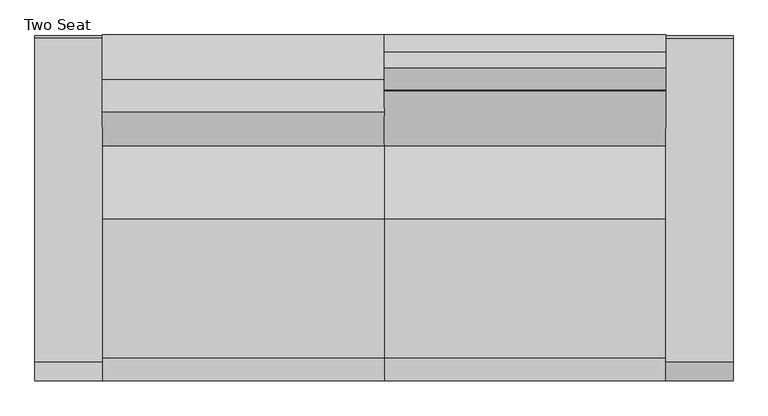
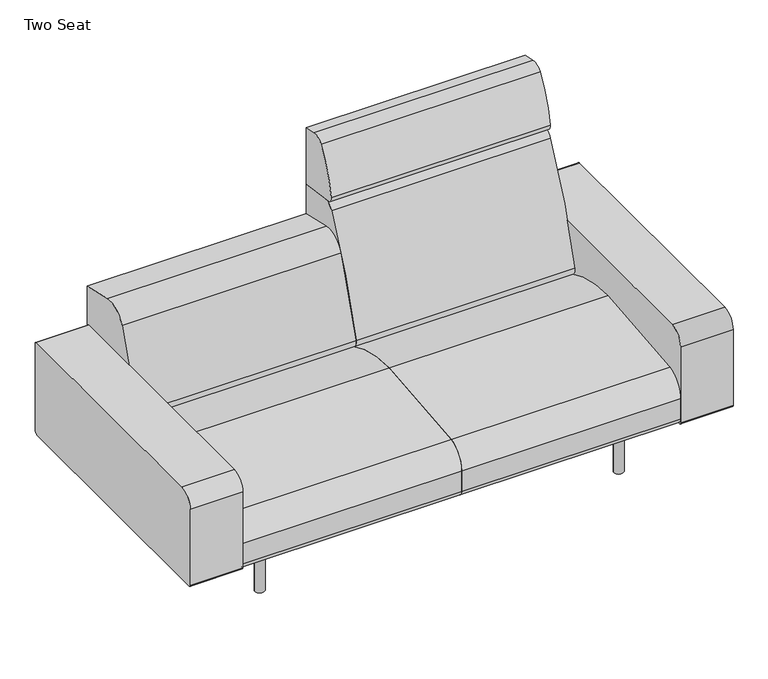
"""IFC4 building model written with IfcOpenShell, lengths in millimetres: furniture geometry, Coalesse_AM_Seating_LoungeChair_Sistema_LegBase_TwoSeat : Two Seat."""

from ifc_helpers import new_model, si_unit, point, frame, frame_2d, origin, origin_with_axes, place, context, project, spatial, polyline, circle_curve, trimmed, segment, composite_curve, outline, extrude, source, transform, mapped, element, save


def two_seat_aba1a2fd(model_context):
    return source(origin(), model_context, "Body", "SweptSolid", [
        extrude(outline(composite_curve([segment(trimmed(circle_curve(frame_2d((989.1765227, 335.9943389)), 6.096), [point((995.2725227, 335.9943389))], [point((983.0805227, 335.9943389))], False, "CARTESIAN"), True, "CONTINUOUS"), segment(trimmed(circle_curve(frame_2d((989.1765227, 335.9943389)), 6.096), [point((983.0805227, 335.9943389))], [point((995.2725227, 335.9943389))], False, "CARTESIAN"), True, "CONTINUOUS")], self_intersect=False)), origin_with_axes(), (0.0, 0.0, 1.0), 4.3662291),
        extrude(outline(composite_curve([segment(trimmed(circle_curve(frame_2d((989.1765227, -327.2630889)), 6.096), [point((995.2725227, -327.2630889))], [point((983.0805227, -327.2630889))], False, "CARTESIAN"), True, "CONTINUOUS"), segment(trimmed(circle_curve(frame_2d((989.1765227, -327.2630889)), 6.096), [point((983.0805227, -327.2630889))], [point((995.2725227, -327.2630889))], False, "CARTESIAN"), True, "CONTINUOUS")], self_intersect=False)), origin_with_axes(), (0.0, 0.0, 1.0), 4.3662291),
        extrude(outline(composite_curve([segment(polyline([(157.0399209, 1001.756375), (201.7356243, 1001.756375)]), True, "CONTINUOUS"), segment(trimmed(circle_curve(frame_2d((201.7356243, 998.708375)), 3.048), [point((201.7356243, 1001.756375))], [point((204.7836243, 998.708375))], False, "CARTESIAN"), True, "CONTINUOUS"), segment(polyline([(204.7836243, 998.708375), (204.7836243, 979.366199)]), True, "CONTINUOUS"), segment(trimmed(circle_curve(frame_2d((201.7356243, 979.366199)), 3.048), [point((204.7836243, 979.366199))], [point((201.7356243, 976.318199))], False, "CARTESIAN"), True, "CONTINUOUS"), segment(polyline([(201.7356243, 976.318199), (157.1249936, 976.318199)]), True, "CONTINUOUS"), segment(trimmed(circle_curve(frame_2d((157.1249936, 979.4512718)), 3.1330728), [point((157.1249936, 976.318199))], [point((153.9919209, 979.4512718))], False, "CARTESIAN"), True, "CONTINUOUS"), segment(polyline([(153.9919209, 979.4512718), (153.9919209, 998.708375)]), True, "CONTINUOUS"), segment(trimmed(circle_curve(frame_2d((157.0399209, 998.708375)), 3.048), [point((153.9919209, 998.708375))], [point((157.0399209, 1001.756375))], False, "CARTESIAN"), True, "CONTINUOUS")], self_intersect=False)), frame((0.0, 222.3519802, 0.0), z_axis=(0.0, 1.0, 0.0), x_axis=(0.0, 0.0, 1.0)), (0.0, 0.0, 1.0), 92.6273161),
        extrude(outline(composite_curve([segment(polyline([(157.0399209, 1001.756375), (201.7356243, 1001.756375)]), True, "CONTINUOUS"), segment(trimmed(circle_curve(frame_2d((201.7356243, 998.708375)), 3.048), [point((201.7356243, 1001.756375))], [point((204.7836243, 998.708375))], False, "CARTESIAN"), True, "CONTINUOUS"), segment(polyline([(204.7836243, 998.708375), (204.7836243, 979.366199)]), True, "CONTINUOUS"), segment(trimmed(circle_curve(frame_2d((201.7356243, 979.366199)), 3.048), [point((204.7836243, 979.366199))], [point((201.7356243, 976.318199))], False, "CARTESIAN"), True, "CONTINUOUS"), segment(polyline([(201.7356243, 976.318199), (157.1249936, 976.318199)]), True, "CONTINUOUS"), segment(trimmed(circle_curve(frame_2d((157.1249936, 979.4512718)), 3.1330728), [point((157.1249936, 976.318199))], [point((153.9919209, 979.4512718))], False, "CARTESIAN"), True, "CONTINUOUS"), segment(polyline([(153.9919209, 979.4512718), (153.9919209, 998.708375)]), True, "CONTINUOUS"), segment(trimmed(circle_curve(frame_2d((157.0399209, 998.708375)), 3.048), [point((153.9919209, 998.708375))], [point((157.0399209, 1001.756375))], False, "CARTESIAN"), True, "CONTINUOUS")], self_intersect=False)), frame((0.0, -314.9792963, 0.0), z_axis=(0.0, 1.0, 0.0), x_axis=(0.0, 0.0, 1.0)), (0.0, 0.0, 1.0), 92.6273161),
        extrude(outline(composite_curve([segment(trimmed(circle_curve(frame_2d((176.3356606, 966.5259944)), 3.048), [point((179.3836606, 966.5259944))], [point((176.3356606, 963.4779944))], False, "CARTESIAN"), True, "CONTINUOUS"), segment(polyline([(176.3356606, 963.4779944), (157.0399209, 963.4779944)]), True, "CONTINUOUS"), segment(trimmed(circle_curve(frame_2d((157.0399209, 966.5259944)), 3.048), [point((157.0399209, 963.4779944))], [point((153.9919209, 966.5259944))], False, "CARTESIAN"), True, "CONTINUOUS"), segment(polyline([(153.9919209, 966.5259944), (153.9919209, 1011.2135501)]), True, "CONTINUOUS"), segment(trimmed(circle_curve(frame_2d((157.056462, 1011.2135501)), 3.0645412), [point((153.9919209, 1011.2135501))], [point((157.056462, 1014.2780913))], False, "CARTESIAN"), True, "CONTINUOUS"), segment(polyline([(157.056462, 1014.2780913), (176.3356606, 1014.2780913)]), True, "CONTINUOUS"), segment(trimmed(circle_curve(frame_2d((176.3356606, 1011.2300913)), 3.048), [point((176.3356606, 1014.2780913))], [point((179.3836606, 1011.2300913))], False, "CARTESIAN"), True, "CONTINUOUS"), segment(polyline([(179.3836606, 1011.2300913), (179.3836606, 966.5259944)]), True, "CONTINUOUS")], self_intersect=False)), frame((0.0, -222.3519802, 0.0), z_axis=(0.0, 1.0, 0.0), x_axis=(0.0, 0.0, 1.0)), (0.0, 0.0, 1.0), 444.7039604),
        extrude(outline(composite_curve([segment(trimmed(circle_curve(frame_2d((989.1765227, 332.3095741)), 16.51), [point((1005.6865227, 332.3095741))], [point((972.6665227, 332.3095741))], False, "CARTESIAN"), True, "CONTINUOUS"), segment(trimmed(circle_curve(frame_2d((989.1765227, 332.3095741)), 16.51), [point((972.6665227, 332.3095741))], [point((1005.6865227, 332.3095741))], False, "CARTESIAN"), True, "CONTINUOUS")], self_intersect=False)), frame((0.0, 0.0, 4.3662291), z_axis=(0.0, 0.0, 1.0), x_axis=(1.0, 0.0, 0.0)), (0.0, 0.0, 1.0), 200.1037709),
        extrude(outline(composite_curve([segment(trimmed(circle_curve(frame_2d((988.7796477, -327.5470741)), 16.51), [point((1005.2896477, -327.5470741))], [point((972.2696477, -327.5470741))], False, "CARTESIAN"), True, "CONTINUOUS"), segment(trimmed(circle_curve(frame_2d((988.7796477, -327.5470741)), 16.51), [point((972.2696477, -327.5470741))], [point((1005.2896477, -327.5470741))], False, "CARTESIAN"), True, "CONTINUOUS")], self_intersect=False)), frame((0.0, 0.0, 4.3662291), z_axis=(0.0, 0.0, 1.0), x_axis=(1.0, 0.0, 0.0)), (0.0, 0.0, 1.0), 200.1037709),
        extrude(outline(composite_curve([segment(polyline([(-461.2704381, 212.4103341), (-461.2704381, 487.0244726)]), True, "CONTINUOUS"), segment(trimmed(circle_curve(frame_2d((-410.4704381, 487.0244726)), 50.8), [point((-461.2704381, 487.0244726))], [point((-410.4704381, 537.8244726))], False, "CARTESIAN"), True, "CONTINUOUS"), segment(polyline([(-410.4704381, 537.8244726), (450.1139321, 537.8244726)]), True, "CONTINUOUS"), segment(trimmed(circle_curve(frame_2d((450.1139321, 530.2044726)), 7.62), [point((450.1139321, 537.8244726))], [point((457.7339321, 530.2044726))], False, "CARTESIAN"), True, "CONTINUOUS"), segment(polyline([(457.7339321, 530.2044726), (457.7339321, 217.4903341)]), True, "CONTINUOUS"), segment(trimmed(circle_curve(frame_2d((445.0339321, 217.4903341)), 12.7), [point((457.7339321, 217.4903341))], [point((445.0339321, 204.7903341))], False, "CARTESIAN"), True, "CONTINUOUS"), segment(polyline([(445.0339321, 204.7903341), (-453.6504381, 204.7903341)]), True, "CONTINUOUS"), segment(trimmed(circle_curve(frame_2d((-453.6504381, 212.4103341)), 7.62), [point((-453.6504381, 204.7903341))], [point((-461.2704381, 212.4103341))], False, "CARTESIAN"), True, "CONTINUOUS")], self_intersect=False)), frame((-554.3698424, 0.0, 0.0), z_axis=(1.0, 0.0, 0.0), x_axis=(0.0, 1.0, 0.0)), (0.0, 0.0, 1.0), 179.5663651),
        extrude(outline(composite_curve([segment(polyline([(459.4795619, 673.6041325), (459.4795619, 228.1929806)]), True, "CONTINUOUS"), segment(trimmed(circle_curve(frame_2d((191.495971, 228.1929806)), 267.983591), [point((459.4795619, 228.1929806))], [point((458.9860775, 211.937276))], False, "CARTESIAN"), True, "CONTINUOUS"), segment(polyline([(458.9860775, 211.937276), (177.4990556, 364.1028799)]), True, "CONTINUOUS"), segment(trimmed(circle_curve(frame_2d((189.5778307, 386.4470781)), 25.4), [point((177.4990556, 364.1028799))], [point((164.9600055, 392.7018911))], False, "CARTESIAN"), True, "CONTINUOUS"), segment(trimmed(circle_curve(frame_2d((1918.112812, -52.7331923)), 1808.8552115), [point((164.9600055, 392.7018911))], [point((254.1018253, 656.5090883))], False, "CARTESIAN"), True, "CONTINUOUS"), segment(trimmed(circle_curve(frame_2d((324.2001043, 626.6314831)), 76.2), [point((254.1018253, 656.5090883))], [point((341.3413746, 700.8784821))], False, "CARTESIAN"), True, "CONTINUOUS"), segment(polyline([(341.3413746, 700.8784821), (459.4795619, 673.6041325)]), True, "CONTINUOUS")], self_intersect=False)), frame((-374.8034773, 0.0, 0.0), z_axis=(1.0, 0.0, 0.0), x_axis=(0.0, 1.0, 0.0)), (0.0, 0.0, 1.0), 749.3),
        extrude(outline(composite_curve([segment(trimmed(circle_curve(frame_2d((-438.9184381, 226.822)), 22.352), [point((-438.9184381, 204.47))], [point((-461.2704381, 226.822))], False, "CARTESIAN"), True, "CONTINUOUS"), segment(polyline([(-461.2704381, 226.822), (-461.2704381, 301.4421993)]), True, "CONTINUOUS"), segment(trimmed(circle_curve(frame_2d((-385.0704381, 301.4421993)), 76.2), [point((-461.2704381, 301.4421993))], [point((-398.9277015, 376.3716077))], False, "CARTESIAN"), True, "CONTINUOUS"), segment(trimmed(circle_curve(frame_2d((2.2103559, -1792.6740646)), 2205.8265729), [point((-398.9277015, 376.3716077))], [point((-31.1968175, 412.8995185))], False, "CARTESIAN"), True, "CONTINUOUS"), segment(trimmed(circle_curve(frame_2d((-24.5128424, -28.3829182)), 441.333054), [point((-31.1968175, 412.8995185))], [point((184.5757008, 360.2774035))], False, "CARTESIAN"), True, "CONTINUOUS"), segment(polyline([(184.5757008, 360.2774035), (458.9860775, 211.937276)]), True, "CONTINUOUS"), segment(trimmed(circle_curve(frame_2d((442.3266309, 226.7871991)), 22.3171991), [point((458.9860775, 211.937276))], [point((442.3266309, 204.47))], False, "CARTESIAN"), True, "CONTINUOUS"), segment(polyline([(442.3266309, 204.47), (-438.9184381, 204.47)]), True, "CONTINUOUS")], self_intersect=False)), frame((-374.8034773, 0.0, 0.0), z_axis=(1.0, 0.0, 0.0), x_axis=(0.0, 1.0, 0.0)), (0.0, 0.0, 1.0), 749.3),
        extrude(outline(composite_curve([segment(polyline([(-461.2704381, 212.4103341), (-461.2704381, 487.0244726)]), True, "CONTINUOUS"), segment(trimmed(circle_curve(frame_2d((-410.4704381, 487.0244726)), 50.8), [point((-461.2704381, 487.0244726))], [point((-410.4704381, 537.8244726))], False, "CARTESIAN"), True, "CONTINUOUS"), segment(polyline([(-410.4704381, 537.8244726), (450.1139321, 537.8244726)]), True, "CONTINUOUS"), segment(trimmed(circle_curve(frame_2d((450.1139321, 530.2044726)), 7.62), [point((450.1139321, 537.8244726))], [point((457.7339321, 530.2044726))], False, "CARTESIAN"), True, "CONTINUOUS"), segment(polyline([(457.7339321, 530.2044726), (457.7339321, 217.4903341)]), True, "CONTINUOUS"), segment(trimmed(circle_curve(frame_2d((445.0339321, 217.4903341)), 12.7), [point((457.7339321, 217.4903341))], [point((445.0339321, 204.7903341))], False, "CARTESIAN"), True, "CONTINUOUS"), segment(polyline([(445.0339321, 204.7903341), (-453.6504381, 204.7903341)]), True, "CONTINUOUS"), segment(trimmed(circle_curve(frame_2d((-453.6504381, 212.4103341)), 7.62), [point((-453.6504381, 204.7903341))], [point((-461.2704381, 212.4103341))], False, "CARTESIAN"), True, "CONTINUOUS")], self_intersect=False)), frame((1123.7965227, 0.0, 0.0), z_axis=(1.0, 0.0, 0.0), x_axis=(0.0, 1.0, 0.0)), (0.0, 0.0, 1.0), 179.5663651),
        extrude(outline(composite_curve([segment(polyline([(459.4795619, 985.4592709), (459.4795619, 780.845009), (327.9700683, 799.327463)]), True, "CONTINUOUS"), segment(trimmed(circle_curve(frame_2d((330.6213159, 818.1920697)), 19.05), [point((327.9700683, 799.327463))], [point((311.7521971, 820.8110119))], False, "CARTESIAN"), True, "CONTINUOUS"), segment(trimmed(circle_curve(frame_2d((679.5815991, 769.7580741)), 371.3554516), [point((311.7521971, 820.8110119))], [point((372.1246101, 978.0249014))], False, "CARTESIAN"), True, "CONTINUOUS"), segment(trimmed(circle_curve(frame_2d((405.8944569, 955.1497055)), 40.7881985), [point((372.1246101, 978.0249014))], [point((414.3748002, 995.046584))], False, "CARTESIAN"), True, "CONTINUOUS"), segment(polyline([(414.3748002, 995.046584), (459.4795619, 985.4592709)]), True, "CONTINUOUS")], self_intersect=False)), frame((374.4965227, 0.0, 0.0), z_axis=(1.0, 0.0, 0.0), x_axis=(0.0, 1.0, 0.0)), (0.0, 0.0, 1.0), 749.3),
        extrude(outline(composite_curve([segment(polyline([(459.4795619, 780.845009), (459.4795619, 228.1929806)]), True, "CONTINUOUS"), segment(trimmed(circle_curve(frame_2d((191.495971, 228.1929806)), 267.983591), [point((459.4795619, 228.1929806))], [point((458.9860775, 211.937276))], False, "CARTESIAN"), True, "CONTINUOUS"), segment(polyline([(458.9860775, 211.937276), (177.4990556, 364.1028799)]), True, "CONTINUOUS"), segment(trimmed(circle_curve(frame_2d((189.5778307, 386.4470781)), 25.4), [point((177.4990556, 364.1028799))], [point((164.9600055, 392.7018911))], False, "CARTESIAN"), True, "CONTINUOUS"), segment(trimmed(circle_curve(frame_2d((1918.112812, -52.7331923)), 1808.8552115), [point((164.9600055, 392.7018911))], [point((310.2880264, 776.0349508))], False, "CARTESIAN"), True, "CONTINUOUS"), segment(trimmed(circle_curve(frame_2d((344.1537133, 758.5785695)), 38.1), [point((310.2880264, 776.0349508))], [point((349.4562085, 796.3077829))], False, "CARTESIAN"), True, "CONTINUOUS"), segment(polyline([(349.4562085, 796.3077829), (459.4795619, 780.845009)]), True, "CONTINUOUS")], self_intersect=False)), frame((374.4965227, 0.0, 0.0), z_axis=(1.0, 0.0, 0.0), x_axis=(0.0, 1.0, 0.0)), (0.0, 0.0, 1.0), 749.3),
        extrude(outline(composite_curve([segment(trimmed(circle_curve(frame_2d((-438.9184381, 226.822)), 22.352), [point((-438.9184381, 204.47))], [point((-461.2704381, 226.822))], False, "CARTESIAN"), True, "CONTINUOUS"), segment(polyline([(-461.2704381, 226.822), (-461.2704381, 301.4421993)]), True, "CONTINUOUS"), segment(trimmed(circle_curve(frame_2d((-385.0704381, 301.4421993)), 76.2), [point((-461.2704381, 301.4421993))], [point((-398.9277015, 376.3716077))], False, "CARTESIAN"), True, "CONTINUOUS"), segment(trimmed(circle_curve(frame_2d((2.2103559, -1792.6740646)), 2205.8265729), [point((-398.9277015, 376.3716077))], [point((-31.1968175, 412.8995185))], False, "CARTESIAN"), True, "CONTINUOUS"), segment(trimmed(circle_curve(frame_2d((-24.5128424, -28.3829182)), 441.333054), [point((-31.1968175, 412.8995185))], [point((184.5757008, 360.2774035))], False, "CARTESIAN"), True, "CONTINUOUS"), segment(polyline([(184.5757008, 360.2774035), (458.9860775, 211.937276)]), True, "CONTINUOUS"), segment(trimmed(circle_curve(frame_2d((442.3266309, 226.7871991)), 22.3171991), [point((458.9860775, 211.937276))], [point((442.3266309, 204.47))], False, "CARTESIAN"), True, "CONTINUOUS"), segment(polyline([(442.3266309, 204.47), (-438.9184381, 204.47)]), True, "CONTINUOUS")], self_intersect=False)), frame((374.4965227, 0.0, 0.0), z_axis=(1.0, 0.0, 0.0), x_axis=(0.0, 1.0, 0.0)), (0.0, 0.0, 1.0), 749.3),
        extrude(outline(composite_curve([segment(trimmed(circle_curve(frame_2d((-240.1834773, 335.9943389)), 6.096), [point((-246.2794773, 335.9943389))], [point((-234.0874773, 335.9943389))], False, "CARTESIAN"), True, "CONTINUOUS"), segment(trimmed(circle_curve(frame_2d((-240.1834773, 335.9943389)), 6.096), [point((-234.0874773, 335.9943389))], [point((-246.2794773, 335.9943389))], False, "CARTESIAN"), True, "CONTINUOUS")], self_intersect=False)), origin_with_axes(), (0.0, 0.0, 1.0), 4.3662291),
        extrude(outline(composite_curve([segment(trimmed(circle_curve(frame_2d((-240.1834773, -327.2630889)), 6.096), [point((-246.2794773, -327.2630889))], [point((-234.0874773, -327.2630889))], False, "CARTESIAN"), True, "CONTINUOUS"), segment(trimmed(circle_curve(frame_2d((-240.1834773, -327.2630889)), 6.096), [point((-234.0874773, -327.2630889))], [point((-246.2794773, -327.2630889))], False, "CARTESIAN"), True, "CONTINUOUS")], self_intersect=False)), origin_with_axes(), (0.0, 0.0, 1.0), 4.3662291),
        extrude(outline(composite_curve([segment(trimmed(circle_curve(frame_2d((157.0399209, -249.7153296)), 3.048), [point((157.0399209, -252.7633296))], [point((153.9919209, -249.7153296))], False, "CARTESIAN"), True, "CONTINUOUS"), segment(polyline([(153.9919209, -249.7153296), (153.9919209, -230.4582264)]), True, "CONTINUOUS"), segment(trimmed(circle_curve(frame_2d((157.1249936, -230.4582264)), 3.1330728), [point((153.9919209, -230.4582264))], [point((157.1249936, -227.3251537))], False, "CARTESIAN"), True, "CONTINUOUS"), segment(polyline([(157.1249936, -227.3251537), (201.7356243, -227.3251537)]), True, "CONTINUOUS"), segment(trimmed(circle_curve(frame_2d((201.7356243, -230.3731537)), 3.048), [point((201.7356243, -227.3251537))], [point((204.7836243, -230.3731537))], False, "CARTESIAN"), True, "CONTINUOUS"), segment(polyline([(204.7836243, -230.3731537), (204.7836243, -249.7153296)]), True, "CONTINUOUS"), segment(trimmed(circle_curve(frame_2d((201.7356243, -249.7153296)), 3.048), [point((204.7836243, -249.7153296))], [point((201.7356243, -252.7633296))], False, "CARTESIAN"), True, "CONTINUOUS"), segment(polyline([(201.7356243, -252.7633296), (157.0399209, -252.7633296)]), True, "CONTINUOUS")], self_intersect=False)), frame((0.0, 222.3519802, 0.0), z_axis=(0.0, 1.0, 0.0), x_axis=(0.0, 0.0, 1.0)), (0.0, 0.0, 1.0), 92.6273161),
        extrude(outline(composite_curve([segment(trimmed(circle_curve(frame_2d((157.0399209, -249.7153296)), 3.048), [point((157.0399209, -252.7633296))], [point((153.9919209, -249.7153296))], False, "CARTESIAN"), True, "CONTINUOUS"), segment(polyline([(153.9919209, -249.7153296), (153.9919209, -230.4582264)]), True, "CONTINUOUS"), segment(trimmed(circle_curve(frame_2d((157.1249936, -230.4582264)), 3.1330728), [point((153.9919209, -230.4582264))], [point((157.1249936, -227.3251537))], False, "CARTESIAN"), True, "CONTINUOUS"), segment(polyline([(157.1249936, -227.3251537), (201.7356243, -227.3251537)]), True, "CONTINUOUS"), segment(trimmed(circle_curve(frame_2d((201.7356243, -230.3731537)), 3.048), [point((201.7356243, -227.3251537))], [point((204.7836243, -230.3731537))], False, "CARTESIAN"), True, "CONTINUOUS"), segment(polyline([(204.7836243, -230.3731537), (204.7836243, -249.7153296)]), True, "CONTINUOUS"), segment(trimmed(circle_curve(frame_2d((201.7356243, -249.7153296)), 3.048), [point((204.7836243, -249.7153296))], [point((201.7356243, -252.7633296))], False, "CARTESIAN"), True, "CONTINUOUS"), segment(polyline([(201.7356243, -252.7633296), (157.0399209, -252.7633296)]), True, "CONTINUOUS")], self_intersect=False)), frame((0.0, -314.9792963, 0.0), z_axis=(0.0, 1.0, 0.0), x_axis=(0.0, 0.0, 1.0)), (0.0, 0.0, 1.0), 92.6273161),
        extrude(outline(composite_curve([segment(polyline([(179.3836606, -217.532949), (179.3836606, -262.2370459)]), True, "CONTINUOUS"), segment(trimmed(circle_curve(frame_2d((176.3356606, -262.2370459)), 3.048), [point((179.3836606, -262.2370459))], [point((176.3356606, -265.2850459))], False, "CARTESIAN"), True, "CONTINUOUS"), segment(polyline([(176.3356606, -265.2850459), (157.056462, -265.2850459)]), True, "CONTINUOUS"), segment(trimmed(circle_curve(frame_2d((157.056462, -262.2205047)), 3.0645412), [point((157.056462, -265.2850459))], [point((153.9919209, -262.2205047))], False, "CARTESIAN"), True, "CONTINUOUS"), segment(polyline([(153.9919209, -262.2205047), (153.9919209, -217.532949)]), True, "CONTINUOUS"), segment(trimmed(circle_curve(frame_2d((157.0399209, -217.532949)), 3.048), [point((153.9919209, -217.532949))], [point((157.0399209, -214.484949))], False, "CARTESIAN"), True, "CONTINUOUS"), segment(polyline([(157.0399209, -214.484949), (176.3356606, -214.484949)]), True, "CONTINUOUS"), segment(trimmed(circle_curve(frame_2d((176.3356606, -217.532949)), 3.048), [point((176.3356606, -214.484949))], [point((179.3836606, -217.532949))], False, "CARTESIAN"), True, "CONTINUOUS")], self_intersect=False)), frame((0.0, -222.3519802, 0.0), z_axis=(0.0, 1.0, 0.0), x_axis=(0.0, 0.0, 1.0)), (0.0, 0.0, 1.0), 444.7039604),
        extrude(outline(composite_curve([segment(trimmed(circle_curve(frame_2d((-240.1834773, 332.3095741)), 16.51), [point((-256.6934773, 332.3095741))], [point((-223.6734773, 332.3095741))], False, "CARTESIAN"), True, "CONTINUOUS"), segment(trimmed(circle_curve(frame_2d((-240.1834773, 332.3095741)), 16.51), [point((-223.6734773, 332.3095741))], [point((-256.6934773, 332.3095741))], False, "CARTESIAN"), True, "CONTINUOUS")], self_intersect=False)), frame((0.0, 0.0, 4.3662291), z_axis=(0.0, 0.0, 1.0), x_axis=(1.0, 0.0, 0.0)), (0.0, 0.0, 1.0), 200.1037709),
        extrude(outline(composite_curve([segment(trimmed(circle_curve(frame_2d((-239.7866023, -327.5470741)), 16.51), [point((-256.2966023, -327.5470741))], [point((-223.2766023, -327.5470741))], False, "CARTESIAN"), True, "CONTINUOUS"), segment(trimmed(circle_curve(frame_2d((-239.7866023, -327.5470741)), 16.51), [point((-223.2766023, -327.5470741))], [point((-256.2966023, -327.5470741))], False, "CARTESIAN"), True, "CONTINUOUS")], self_intersect=False)), frame((0.0, 0.0, 4.3662291), z_axis=(0.0, 0.0, 1.0), x_axis=(1.0, 0.0, 0.0)), (0.0, 0.0, 1.0), 200.1037709),
    ])


if __name__ == "__main__":
    model = new_model("IFC4")
    model_context = context("Model", 3, world=origin())
    ifc_project = project(units=[si_unit("LENGTHUNIT", "METRE", prefix="MILLI")], contexts=[model_context])
    site = spatial("IfcSite", under=ifc_project)
    building = spatial("IfcBuilding", under=site)
    placement = place(None, origin())
    two_seat_shape = two_seat_aba1a2fd(model_context)
    element("IfcFurniture", 1, ObjectType="Coalesse_AM_Seating_LoungeChair_Sistema_LegBase_TwoSeat : Two Seat", at=placement, inside=building, context=model_context, shape_type="MappedRepresentation", body=[
        mapped(two_seat_shape, transform((0.0, 0.0, 0.0), x_axis=(1.0, 0.0, 0.0), y_axis=(0.0, 1.0, 0.0), z_axis=(0.0, 0.0, 1.0))),
    ])
    save(model, "model.ifc")
